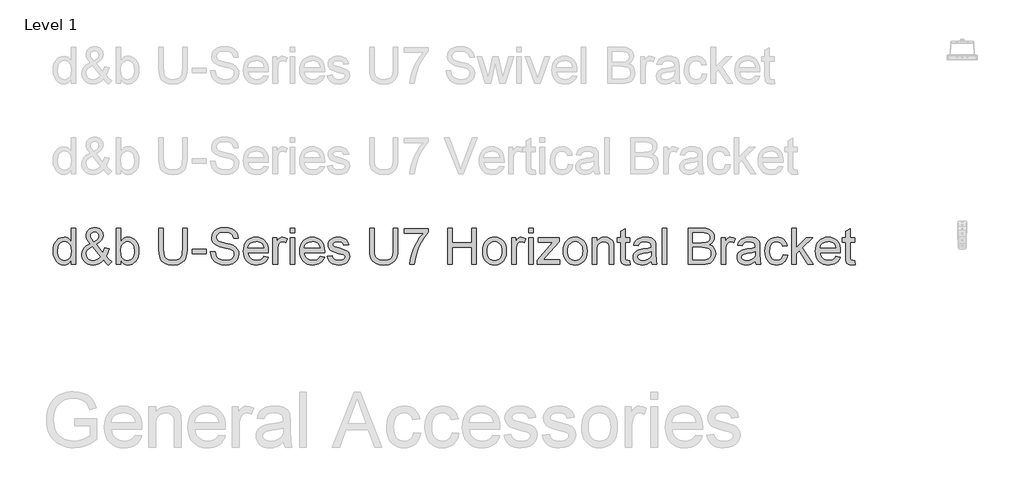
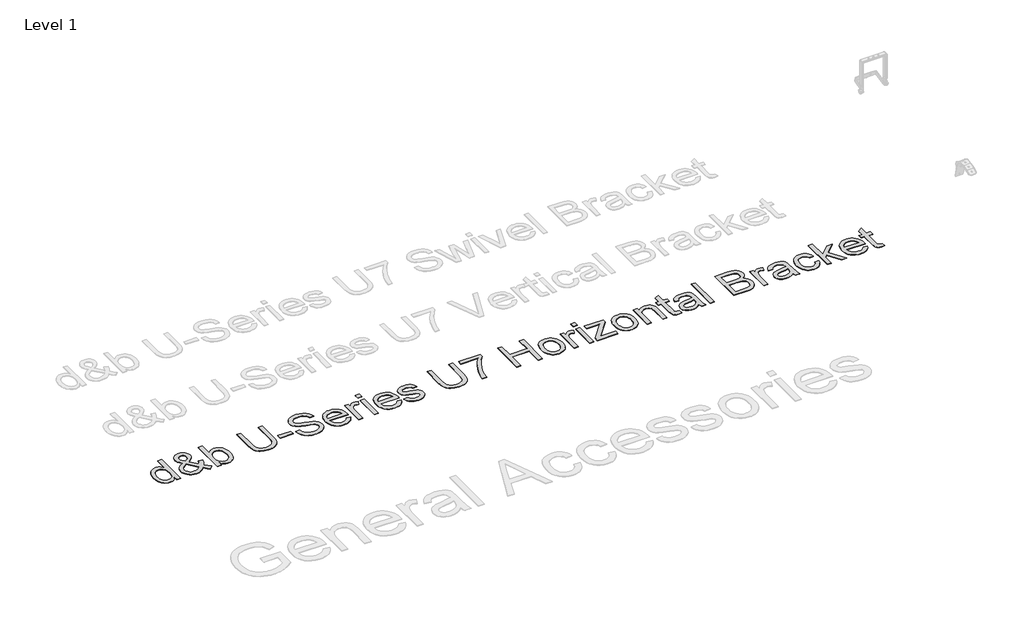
# One storey, part 3 of 29: 1 proxy.
"""IFC4 building model written with IfcOpenShell, lengths in millimetres."""

from ifc_helpers import new_model, si_unit, origin, origin_with_axes, place, context, project, spatial, polyline, outline, extrude, element, save

model = new_model("IFC4")

# Units and contexts
model_context = context("Model", 3, world=origin())
ifc_project = project(units=[si_unit("LENGTHUNIT", "METRE", prefix="MILLI")], contexts=[model_context])

# Site, building, storey
site = spatial("IfcSite", under=ifc_project)
building = spatial("IfcBuilding", under=site)
storey = spatial("IfcBuildingStorey", under=building, Name="Level 1", Elevation=0.0)

# Proxy
placement = place(None, origin())
element("IfcBuildingElementProxy", 1, Name="400mm Arial", ObjectType="400mm Arial", at=placement, inside=storey, context=model_context, shape_type="SweptSolid", body=[
    extrude(outline(polyline([(-20788.4119982, -9835.6363385), (-20788.4119982, -9788.2531375), (-20803.4399777, -9811.7301402), (-20821.6440051, -9828.4994278), (-20843.0240804, -9838.5610004), (-20867.5802036, -9841.9148579), (-20900.051921, -9837.0588156), (-20929.7767862, -9822.4906885), (-20954.9399147, -9799.2282837), (-20973.7264219, -9768.2894079), (-20985.4250694, -9730.9248599), (-20989.3246185, -9688.3854386), (-20985.7316377, -9646.3733147), (-20974.9526952, -9608.4324183), (-20957.0000539, -9576.7209903), (-20931.8859763, -9553.3972718), (-20901.5111863, -9539.049874), (-20867.7764073, -9534.2674081), (-20843.20189, -9537.6887106), (-20821.4723268, -9547.9526183), (-20803.0537016, -9563.6857049), (-20788.4119982, -9583.5145445), (-20788.4119982, -9433.8110979), (-20738.1838431, -9433.8110979), (-20738.1838431, -9835.6363385), (-20788.4119982, -9835.6363385)]), holes=[polyline([(-20939.0964634, -9688.1892348), (-20937.6801177, -9712.5460886), (-20933.4310807, -9733.6226612), (-20926.3493523, -9751.4189528), (-20916.4349325, -9765.9349632), (-20891.7377879, -9785.2487679), (-20877.8625053, -9790.0772191), (-20862.9694159, -9791.6867028), (-20848.0058157, -9790.1507955), (-20834.2133066, -9785.5430735), (-20810.1415614, -9767.1121855), (-20800.6348775, -9753.2031804), (-20793.844389, -9736.0506824), (-20788.4119982, -9692.0152076), (-20793.9424909, -9643.8717172), (-20800.8556067, -9625.336596), (-20810.5339688, -9610.4925575), (-20822.235682, -9599.1188724), (-20835.2188507, -9590.9948117), (-20849.4834751, -9586.1203753), (-20865.0295551, -9584.4955631), (-20880.2169501, -9586.0559959), (-20894.0922327, -9590.7372943), (-20906.6554028, -9598.5394583), (-20917.9064605, -9609.4624879), (-20927.1770868, -9623.7455063), (-20933.7989627, -9641.627637), (-20939.0964634, -9688.1892348)])]), origin_with_axes(), (0.0, 0.0, 1.0), 5.0),
    extrude(outline(polyline([(-20432.4003287, -9785.9967946), (-20457.9313392, -9810.4609473), (-20485.6696416, -9827.9353421), (-20515.664287, -9838.4199789), (-20547.9643262, -9841.9148579), (-20577.2722584, -9839.3274212), (-20603.3918801, -9831.5651111), (-20626.3231911, -9818.6279276), (-20646.0661915, -9800.5158707), (-20658.8991418, -9783.1457092), (-20668.0655348, -9764.7822662), (-20673.5653707, -9745.4255419), (-20675.3986493, -9725.0755362), (-20669.5002746, -9689.881492), (-20651.8051507, -9658.2681659), (-20622.3868538, -9630.2600833), (-20581.3189604, -9605.8817698), (-20603.2324646, -9577.5303307), (-20616.3903773, -9555.0650035), (-20622.975465, -9535.8860888), (-20625.1704942, -9517.3938872), (-20623.4414488, -9499.8397847), (-20618.2543127, -9483.4751673), (-20609.6090858, -9468.300035), (-20597.5057682, -9454.3143878), (-20582.784357, -9442.5973462), (-20566.2848495, -9434.2280308), (-20548.0072457, -9429.2064416), (-20527.9515456, -9427.5325785), (-20508.8032878, -9429.1328652), (-20491.4821772, -9433.9337252), (-20475.9882138, -9441.9351586), (-20462.3213977, -9453.1371654), (-20451.1623105, -9466.5832523), (-20443.1915339, -9481.3169262), (-20438.409068, -9497.3381871), (-20436.8149127, -9514.647035), (-20441.5360649, -9542.6305921), (-20455.6995218, -9568.5049591), (-20479.3052831, -9592.270136), (-20512.353349, -9613.9261227), (-20439.6598668, -9704.4741445), (-20427.2745063, -9678.5997775), (-20417.9793545, -9648.8503868), (-20367.7511994, -9659.7396939), (-20383.2022432, -9706.2645035), (-20403.2640747, -9742.4395664), (-20374.7164319, -9775.7451497), (-20342.6371219, -9803.2627229), (-20380.3082382, -9841.9148579), (-20405.9373505, -9818.4685121), (-20432.4003287, -9785.9967946)]), holes=[polyline([(-20537.7617322, -9582.2392202), (-20511.4949577, -9565.5741659), (-20496.4608468, -9551.091878), (-20489.3975125, -9537.0019976), (-20487.0430678, -9521.5141656), (-20490.1455392, -9503.9661944), (-20499.4529537, -9489.9744158), (-20513.4202068, -9480.8141542), (-20530.5021941, -9477.7607336), (-20547.9520634, -9480.7896287), (-20562.2381476, -9489.876314), (-20571.7662912, -9503.3285323), (-20574.9423391, -9519.4540264), (-20570.6258571, -9537.8481261), (-20557.578309, -9558.3023651), (-20537.7617322, -9582.2392202)]), polyline([(-20466.0492686, -9749.7972063), (-20555.7143735, -9637.8629779), (-20589.9641873, -9659.7151684), (-20610.8966728, -9679.9486782), (-20621.6020389, -9699.2747456), (-20625.1704942, -9718.4046094), (-20620.2899264, -9742.0962099), (-20605.648223, -9766.6707271), (-20594.8692805, -9777.6152165), (-20582.0547244, -9785.4327089), (-20567.2045545, -9790.1232043), (-20550.3187709, -9791.6867028), (-20527.5959264, -9788.7681723), (-20504.1618433, -9780.0125808), (-20482.7388484, -9766.6216762), (-20466.0492686, -9749.7972063)])]), origin_with_axes(), (0.0, 0.0, 1.0), 5.0),
    extrude(outline(polyline([(-20242.1808118, -9835.6363385), (-20292.4089668, -9835.6363385), (-20292.4089668, -9433.8110979), (-20242.1808118, -9433.8110979), (-20242.1808118, -9582.8278314), (-20225.6629102, -9561.5826462), (-20207.011293, -9546.4075139), (-20186.2259603, -9537.3024345), (-20163.306912, -9534.2674081), (-20137.432545, -9537.0019976), (-20112.9806551, -9545.2057661), (-20091.3491937, -9558.3636787), (-20073.9361126, -9575.9607008), (-20060.2876906, -9597.8251541), (-20049.9502065, -9623.7853602), (-20043.4386952, -9652.7621987), (-20041.2681915, -9683.676549), (-20043.5153373, -9719.3488398), (-20050.2567749, -9750.729174), (-20061.4925041, -9777.8175516), (-20077.2225251, -9800.6139726), (-20096.1040685, -9818.6831099), (-20116.7943651, -9831.5896366), (-20139.2934148, -9839.3335526), (-20163.6012176, -9841.9148579), (-20187.274424, -9838.5855258), (-20208.2620918, -9828.5975297), (-20226.5642211, -9811.9508694), (-20242.1808118, -9788.645545), (-20242.1808118, -9835.6363385)]), holes=[polyline([(-20242.1808118, -9686.0309938), (-20238.7472465, -9727.9204903), (-20228.4465506, -9756.2719294), (-20216.2757879, -9771.7658928), (-20202.1307252, -9782.8330095), (-20186.0113625, -9789.4732795), (-20167.9176997, -9791.6867028), (-20152.8958515, -9790.0557593), (-20138.9285984, -9785.1629288), (-20126.0159404, -9777.0082112), (-20114.1578774, -9765.5916066), (-20104.2434577, -9750.9437719), (-20097.1617293, -9733.0953637), (-20092.9126922, -9712.0463822), (-20091.4963465, -9687.7968274), (-20096.9287373, -9641.8361035), (-20103.7192258, -9624.0428776), (-20113.2259097, -9609.7077425), (-20124.6578427, -9598.677414), (-20137.2240785, -9590.798608), (-20150.9246172, -9586.0713243), (-20165.7594586, -9584.4955631), (-20180.7813068, -9586.1265066), (-20194.7485599, -9591.0193372), (-20207.6612179, -9599.1740547), (-20219.5192809, -9610.5906593), (-20229.4337006, -9625.0913413), (-20236.515429, -9642.498291), (-20240.7644661, -9662.8115085), (-20242.1808118, -9686.0309938)])]), origin_with_axes(), (0.0, 0.0, 1.0), 5.0),
    extrude(outline(polyline([(-19557.8221989, -9433.8110979), (-19507.5940438, -9433.8110979), (-19507.5940438, -9665.6258058), (-19511.0030836, -9719.9129256), (-19521.2302031, -9761.7165829), (-19529.4155775, -9778.6698116), (-19540.3355414, -9793.9675712), (-19570.3792376, -9819.5966835), (-19589.5213641, -9829.3608848), (-19611.4348683, -9836.3353143), (-19663.5760097, -9841.9148579), (-19714.576717, -9837.0588156), (-19755.3503048, -9822.4906885), (-19771.9049946, -9811.6902863), (-19785.9090359, -9798.7132489), (-19797.3624287, -9783.5595764), (-19806.2651729, -9766.2292688), (-19817.706303, -9722.6597778), (-19821.520013, -9665.6258058), (-19821.520013, -9433.8110979), (-19771.2918579, -9433.8110979), (-19771.2918579, -9663.8599722), (-19768.8147858, -9708.999093), (-19761.3835695, -9740.4284782), (-19747.9190885, -9762.1948295), (-19727.3422222, -9778.3448491), (-19700.5113621, -9788.3512394), (-19668.2848993, -9791.6867028), (-19640.6017791, -9790.0373652), (-19617.1983529, -9785.0893524), (-19598.0746205, -9776.8426643), (-19583.230582, -9765.297301), (-19572.1144144, -9749.0614423), (-19564.1742947, -9726.7432679), (-19559.4102228, -9698.3427779), (-19557.8221989, -9663.8599722), (-19557.8221989, -9433.8110979)])), origin_with_axes(), (0.0, 0.0, 1.0), 5.0),
    extrude(outline(polyline([(-19451.0873693, -9716.3444702), (-19451.0873693, -9666.1163151), (-19294.1243847, -9666.1163151), (-19294.1243847, -9716.3444702), (-19451.0873693, -9716.3444702)])), origin_with_axes(), (0.0, 0.0, 1.0), 5.0),
    extrude(outline(polyline([(-19250.174749, -9697.5089121), (-19199.946594, -9697.5089121), (-19194.1831094, -9725.3821046), (-19183.7597862, -9747.7861181), (-19167.499402, -9765.5670812), (-19144.2247344, -9779.5711224), (-19115.7751935, -9788.6578077), (-19083.9901891, -9791.6867028), (-19056.006632, -9789.3935717), (-19031.5056911, -9782.5141784), (-19011.6523261, -9771.6248713), (-18997.6114966, -9757.301999), (-18989.2605753, -9740.8576738), (-18986.4769349, -9723.6040082), (-18988.5615995, -9706.7918011), (-18994.8155934, -9692.2604623), (-19007.519785, -9679.862839), (-19028.9550426, -9669.4517786), (-19102.0899832, -9650.2728639), (-19150.0985836, -9637.580935), (-19180.8167302, -9625.5021429), (-19205.8204431, -9608.6040966), (-19223.5400926, -9588.1253322), (-19234.0983058, -9564.5073081), (-19237.6177103, -9538.1914827), (-19233.26444, -9508.7731858), (-19220.2046292, -9481.3414517), (-19198.7816343, -9458.0913096), (-19169.338812, -9441.2177887), (-19133.997615, -9430.9538811), (-19094.8794961, -9427.5325785), (-19052.4994903, -9431.1132966), (-19015.4169852, -9441.8554509), (-18984.956356, -9459.5383121), (-18962.4419779, -9483.9411511), (-18948.1926819, -9513.543389), (-18942.5272992, -9546.8244468), (-18992.7554543, -9546.8244468), (-19001.9770296, -9516.854327), (-19010.3402136, -9504.996264), (-19021.2049952, -9495.2228656), (-19051.2486915, -9482.1262666), (-19092.9174588, -9477.7607336), (-19135.5672448, -9482.0772157), (-19151.8705486, -9487.4728183), (-19164.8261262, -9495.0266619), (-19181.7486979, -9514.0829493), (-19187.3895552, -9536.7199547), (-19183.3919042, -9556.0214967), (-19171.3989511, -9571.5461169), (-19143.047512, -9585.4275309), (-19089.3857917, -9599.6032504), (-19034.0072887, -9613.0677314), (-19000.5055016, -9624.8154298), (-18971.8720197, -9643.0378513), (-18951.8960273, -9665.5277039), (-18940.1605917, -9692.0397331), (-18936.2487798, -9722.328684), (-18940.7492029, -9753.2920853), (-18954.2504721, -9782.4160765), (-18976.2007645, -9807.4811031), (-19006.048257, -9826.2676104), (-19041.941277, -9838.003046), (-19082.0281518, -9841.9148579), (-19131.2385, -9837.6964777), (-19171.7423077, -9825.041337), (-19204.0055586, -9803.9003851), (-19228.4942368, -9774.2245708), (-19244.2150607, -9738.0740334), (-19250.174749, -9697.5089121)])), origin_with_axes(), (0.0, 0.0, 1.0), 5.0),
    extrude(outline(polyline([(-18660.5825381, -9747.7370671), (-18611.3354017, -9754.0155865), (-18618.8861796, -9773.7401928), (-18629.0795766, -9791.1226171), (-18641.9155925, -9806.1628593), (-18657.3942275, -9818.8609195), (-18675.3560659, -9828.9470176), (-18695.6416922, -9836.1513733), (-18743.1843087, -9841.9148579), (-18774.3500451, -9839.4285887), (-18802.1190044, -9831.9697813), (-18826.4911866, -9819.5384355), (-18847.4665916, -9802.1345515), (-18864.3339811, -9780.2425071), (-18876.3821165, -9754.3466803), (-18883.6109977, -9724.4470712), (-18886.0206247, -9690.5436796), (-18883.5864722, -9655.4906568), (-18876.2840146, -9624.5947006), (-18864.1132519, -9597.8558109), (-18847.0741842, -9575.2739878), (-18826.1539614, -9557.3336092), (-18802.3397336, -9544.519053), (-18775.6315007, -9536.8303193), (-18746.0292628, -9534.2674081), (-18717.3804525, -9536.8241879), (-18691.472363, -9544.4945275), (-18668.3049943, -9557.2784269), (-18647.8783465, -9575.1758859), (-18631.2040951, -9597.7086581), (-18619.2939155, -9624.3984969), (-18612.1478077, -9655.2454022), (-18609.7657718, -9690.249374), (-18610.0600774, -9703.7874314), (-18835.7924697, -9703.7874314), (-18832.8831362, -9723.8308688), (-18827.0981918, -9741.3849713), (-18818.4376365, -9756.449739), (-18806.9014703, -9769.0251719), (-18793.1273553, -9778.9395917), (-18777.7529536, -9786.0213201), (-18742.2032901, -9791.6867028), (-18715.4705318, -9789.0624779), (-18692.9561537, -9781.1898032), (-18674.6601558, -9767.5781694), (-18660.5825381, -9747.7370671)]), holes=[polyline([(-18835.7924697, -9653.5592764), (-18659.9939269, -9653.5592764), (-18666.7874811, -9627.0227218), (-18680.1048093, -9608.0400108), (-18693.8022823, -9597.739315), (-18709.3882161, -9590.3816751), (-18726.8626109, -9585.9670911), (-18746.2254666, -9584.4955631), (-18780.0828729, -9589.1921899), (-18808.0786927, -9603.2820704), (-18827.5396502, -9625.2446255), (-18835.7924697, -9653.5592764)])]), origin_with_axes(), (0.0, 0.0, 1.0), 5.0),
    extrude(outline(polyline([(-18559.5376168, -9835.6363385), (-18559.5376168, -9540.5459274), (-18515.5879811, -9540.5459274), (-18515.5879811, -9584.2012575), (-18499.3521223, -9558.8909763), (-18484.3915879, -9543.9794927), (-18469.3820025, -9536.6954292), (-18452.998991, -9534.2674081), (-18427.9830153, -9538.1424317), (-18402.5746321, -9549.7675028), (-18419.3500511, -9594.796259), (-18437.0083869, -9587.0707371), (-18454.6667227, -9584.4955631), (-18469.6640453, -9586.9726352), (-18483.0672127, -9594.4038515), (-18493.8952061, -9606.2251263), (-18501.1670069, -9621.8723738), (-18507.273848, -9649.9295073), (-18509.3094617, -9680.5372893), (-18509.3094617, -9835.6363385), (-18559.5376168, -9835.6363385)])), origin_with_axes(), (0.0, 0.0, 1.0), 5.0),
    extrude(outline(polyline([(-18371.1820352, -9484.039253), (-18371.1820352, -9433.8110979), (-18320.9538802, -9433.8110979), (-18320.9538802, -9484.039253), (-18371.1820352, -9484.039253)])), origin_with_axes(), (0.0, 0.0, 1.0), 5.0),
    extrude(outline(polyline([(-18371.1820352, -9835.6363385), (-18371.1820352, -9540.5459274), (-18320.9538802, -9540.5459274), (-18320.9538802, -9835.6363385), (-18371.1820352, -9835.6363385)])), origin_with_axes(), (0.0, 0.0, 1.0), 5.0),
    extrude(outline(polyline([(-18039.009119, -9747.7370671), (-17989.7619826, -9754.0155865), (-17997.3127606, -9773.7401928), (-18007.5061575, -9791.1226171), (-18020.3421735, -9806.1628593), (-18035.8208084, -9818.8609195), (-18053.7826468, -9828.9470176), (-18074.0682732, -9836.1513733), (-18121.6108897, -9841.9148579), (-18152.7766261, -9839.4285887), (-18180.5455853, -9831.9697813), (-18204.9177675, -9819.5384355), (-18225.8931726, -9802.1345515), (-18242.7605621, -9780.2425071), (-18254.8086974, -9754.3466803), (-18262.0375786, -9724.4470712), (-18264.4472057, -9690.5436796), (-18262.0130532, -9655.4906568), (-18254.7105956, -9624.5947006), (-18242.5398329, -9597.8558109), (-18225.5007651, -9575.2739878), (-18204.5805423, -9557.3336092), (-18180.7663145, -9544.519053), (-18154.0580817, -9536.8303193), (-18124.4558438, -9534.2674081), (-18095.8070334, -9536.8241879), (-18069.8989439, -9544.4945275), (-18046.7315753, -9557.2784269), (-18026.3049275, -9575.1758859), (-18009.630676, -9597.7086581), (-17997.7204965, -9624.3984969), (-17990.5743887, -9655.2454022), (-17988.1923528, -9690.249374), (-17988.4866584, -9703.7874314), (-18214.2190506, -9703.7874314), (-18211.3097172, -9723.8308688), (-18205.5247728, -9741.3849713), (-18196.8642175, -9756.449739), (-18185.3280513, -9769.0251719), (-18171.5539362, -9778.9395917), (-18156.1795345, -9786.0213201), (-18120.629871, -9791.6867028), (-18093.8971127, -9789.0624779), (-18071.3827346, -9781.1898032), (-18053.0867367, -9767.5781694), (-18039.009119, -9747.7370671)]), holes=[polyline([(-18214.2190506, -9653.5592764), (-18038.4205079, -9653.5592764), (-18045.214062, -9627.0227218), (-18058.5313903, -9608.0400108), (-18072.2288632, -9597.739315), (-18087.8147971, -9590.3816751), (-18105.2891918, -9585.9670911), (-18124.6520475, -9584.4955631), (-18158.5094538, -9589.1921899), (-18186.5052736, -9603.2820704), (-18205.9662312, -9625.2446255), (-18214.2190506, -9653.5592764)])]), origin_with_axes(), (0.0, 0.0, 1.0), 5.0),
    extrude(outline(polyline([(-17956.7997559, -9747.7370671), (-17906.5716008, -9741.4585477), (-17898.6498752, -9762.9428563), (-17883.3214587, -9778.7372566), (-17860.4882495, -9788.4493413), (-17830.0521458, -9791.6867028), (-17799.983924, -9788.7191214), (-17778.8429721, -9779.8163771), (-17766.3349842, -9766.9159818), (-17762.1656549, -9751.9554473), (-17766.3595097, -9739.1531539), (-17778.9410739, -9729.3920183), (-17830.640757, -9715.069146), (-17906.2772952, -9690.4946287), (-17925.4194217, -9678.1460564), (-17939.2885729, -9661.7998331), (-17947.7130706, -9642.498291), (-17950.5212365, -9621.2837627), (-17948.2648936, -9601.8228051), (-17941.4958649, -9583.857901), (-17930.827287, -9568.1002889), (-17916.8722966, -9555.2612073), (-17884.9401395, -9540.3987746), (-17864.0567049, -9535.8002497), (-17841.7262678, -9534.2674081), (-17809.0338211, -9536.7322174), (-17780.6088056, -9544.1266455), (-17757.751071, -9555.7271911), (-17741.7604669, -9570.8103529), (-17731.1654655, -9590.4920397), (-17724.4945386, -9615.8881601), (-17774.7226937, -9622.1666794), (-17781.0625268, -9606.3600164), (-17793.6073028, -9594.4529025), (-17812.4796492, -9586.984898), (-17837.8021932, -9584.4955631), (-17866.6441416, -9586.8745334), (-17885.8721072, -9594.0114441), (-17896.6878378, -9604.3121399), (-17900.2930814, -9616.1824657), (-17894.3088676, -9630.7996436), (-17875.5714113, -9641.8851544), (-17832.3084887, -9652.5782577), (-17758.5849369, -9676.2208073), (-17739.1117166, -9687.5270473), (-17724.3473858, -9703.0026165), (-17715.0399714, -9722.696566), (-17711.9374999, -9746.6579466), (-17715.5795316, -9771.4286676), (-17726.5056269, -9794.7278606), (-17744.2988527, -9814.7283785), (-17768.5422762, -9829.6030738), (-17797.825683, -9838.8369119), (-17830.7388588, -9841.9148579), (-17857.7720541, -9840.4310672), (-17881.3839468, -9835.979695), (-17901.574537, -9828.5607415), (-17918.3438246, -9818.1742065), (-17932.0412976, -9804.869141), (-17943.0164438, -9788.6945959), (-17951.2692632, -9769.6505713), (-17956.7997559, -9747.7370671)])), origin_with_axes(), (0.0, 0.0, 1.0), 5.0),
    extrude(outline(polyline([(-17228.4915073, -9433.8110979), (-17178.2633522, -9433.8110979), (-17178.2633522, -9665.6258058), (-17181.672392, -9719.9129256), (-17191.8995115, -9761.7165829), (-17200.0848859, -9778.6698116), (-17211.0048498, -9793.9675712), (-17241.048546, -9819.5966835), (-17260.1906725, -9829.3608848), (-17282.1041767, -9836.3353143), (-17334.2453182, -9841.9148579), (-17385.2460254, -9837.0588156), (-17426.0196132, -9822.4906885), (-17442.574303, -9811.6902863), (-17456.5783443, -9798.7132489), (-17468.0317371, -9783.5595764), (-17476.9344814, -9766.2292688), (-17488.3756114, -9722.6597778), (-17492.1893214, -9665.6258058), (-17492.1893214, -9433.8110979), (-17441.9611663, -9433.8110979), (-17441.9611663, -9663.8599722), (-17439.4840942, -9708.999093), (-17432.0528779, -9740.4284782), (-17418.5883969, -9762.1948295), (-17398.0115307, -9778.3448491), (-17371.1806705, -9788.3512394), (-17338.9542077, -9791.6867028), (-17311.2710876, -9790.0373652), (-17287.8676613, -9785.0893524), (-17268.7439289, -9776.8426643), (-17253.8998904, -9765.297301), (-17242.7837228, -9749.0614423), (-17234.8436031, -9726.7432679), (-17230.0795312, -9698.3427779), (-17228.4915073, -9663.8599722), (-17228.4915073, -9433.8110979)])), origin_with_axes(), (0.0, 0.0, 1.0), 5.0),
    extrude(outline(polyline([(-17109.199639, -9490.3177724), (-17109.199639, -9440.0896173), (-16845.5018248, -9440.0896173), (-16845.5018248, -9480.7037896), (-16883.087102, -9528.2709315), (-16920.3044972, -9588.7629943), (-16953.1318339, -9656.6617479), (-16977.5469356, -9726.4489623), (-16989.5153632, -9778.6636802), (-16996.1862901, -9835.6363385), (-17046.4144451, -9835.6363385), (-17040.9820543, -9783.8630791), (-17026.4507155, -9722.328684), (-17003.2128362, -9657.1032063), (-16971.6608237, -9594.2566987), (-16934.8235733, -9537.443456), (-16895.7299799, -9490.3177724), (-17109.199639, -9490.3177724)])), origin_with_axes(), (0.0, 0.0, 1.0), 5.0),
    extrude(outline(polyline([(-16625.7536464, -9835.6363385), (-16625.7536464, -9433.8110979), (-16575.5254913, -9433.8110979), (-16575.5254913, -9597.0526019), (-16362.0558322, -9597.0526019), (-16362.0558322, -9433.8110979), (-16311.8276772, -9433.8110979), (-16311.8276772, -9835.6363385), (-16362.0558322, -9835.6363385), (-16362.0558322, -9647.280757), (-16575.5254913, -9647.280757), (-16575.5254913, -9835.6363385), (-16625.7536464, -9835.6363385)])), origin_with_axes(), (0.0, 0.0, 1.0), 5.0),
    extrude(outline(polyline([(-16242.7639639, -9688.091133), (-16240.0477685, -9649.874325), (-16231.8991823, -9616.9427551), (-16218.3182054, -9589.2964232), (-16199.3048376, -9566.9353292), (-16180.1627111, -9552.6431137), (-16159.0340218, -9542.4343884), (-16135.9187698, -9536.3091531), (-16110.816955, -9534.2674081), (-16083.1062437, -9536.7536772), (-16058.0504142, -9544.2124847), (-16035.6494663, -9556.6438304), (-16015.9034002, -9574.0477145), (-15999.7871032, -9595.8355256), (-15988.2754624, -9621.4186527), (-15981.3684779, -9650.7970957), (-15979.0661498, -9683.9708546), (-15983.1373772, -9734.7140445), (-15995.3510594, -9773.341654), (-16015.3515772, -9802.2694415), (-16042.7833114, -9823.9131656), (-16075.3653934, -9837.4144348), (-16110.816955, -9841.9148579), (-16138.9323365, -9839.4377858), (-16164.221158, -9832.0065695), (-16186.6834194, -9819.621209), (-16206.3191209, -9802.2817043), (-16222.2637397, -9780.282361), (-16233.6527532, -9753.9174846), (-16240.4861612, -9723.1870753), (-16242.7639639, -9688.091133)]), holes=[polyline([(-16192.5358089, -9687.9930311), (-16191.082675, -9712.3560162), (-16186.7232733, -9733.450983), (-16179.4576039, -9751.2779313), (-16169.2856668, -9765.8368613), (-16156.912569, -9777.146167), (-16143.0434178, -9785.2242424), (-16127.6782131, -9790.0710877), (-16110.816955, -9791.6867028), (-16094.041536, -9790.0618907), (-16078.737645, -9785.1874542), (-16064.905282, -9777.0633935), (-16052.544447, -9765.6897085), (-16042.3725098, -9750.9866914), (-16035.1068404, -9732.8746345), (-16030.7474387, -9711.3535378), (-16029.2943049, -9686.4234013), (-16030.7566358, -9662.8329683), (-16035.1436286, -9642.2898246), (-16042.4552832, -9624.79397), (-16052.6915998, -9610.3454047), (-16065.09842, -9599.036099), (-16078.921586, -9590.9580235), (-16094.1610977, -9586.1111782), (-16110.816955, -9584.4955631), (-16127.6782131, -9586.1050469), (-16143.0434178, -9590.9334981), (-16156.912569, -9598.9809167), (-16169.2856668, -9610.2473028), (-16179.4576039, -9624.7633132), (-16186.7232733, -9642.5596047), (-16191.082675, -9663.6361773), (-16192.5358089, -9687.9930311)])]), origin_with_axes(), (0.0, 0.0, 1.0), 5.0),
    extrude(outline(polyline([(-15922.5594753, -9835.6363385), (-15922.5594753, -9540.5459274), (-15878.6098396, -9540.5459274), (-15878.6098396, -9584.2012575), (-15862.3739809, -9558.8909763), (-15847.4134464, -9543.9794927), (-15832.403861, -9536.6954292), (-15816.0208495, -9534.2674081), (-15791.0048739, -9538.1424317), (-15765.5964907, -9549.7675028), (-15782.3719097, -9594.796259), (-15800.0302455, -9587.0707371), (-15817.6885812, -9584.4955631), (-15832.6859039, -9586.9726352), (-15846.0890713, -9594.4038515), (-15856.9170647, -9606.2251263), (-15864.1888654, -9621.8723738), (-15870.2957065, -9649.9295073), (-15872.3313203, -9680.5372893), (-15872.3313203, -9835.6363385), (-15922.5594753, -9835.6363385)])), origin_with_axes(), (0.0, 0.0, 1.0), 5.0),
    extrude(outline(polyline([(-15734.2038938, -9484.039253), (-15734.2038938, -9433.8110979), (-15683.9757387, -9433.8110979), (-15683.9757387, -9484.039253), (-15734.2038938, -9484.039253)])), origin_with_axes(), (0.0, 0.0, 1.0), 5.0),
    extrude(outline(polyline([(-15734.2038938, -9835.6363385), (-15734.2038938, -9540.5459274), (-15683.9757387, -9540.5459274), (-15683.9757387, -9835.6363385), (-15734.2038938, -9835.6363385)])), origin_with_axes(), (0.0, 0.0, 1.0), 5.0),
    extrude(outline(polyline([(-15640.026103, -9835.6363385), (-15640.026103, -9788.3512394), (-15466.6801069, -9590.7740825), (-15517.9873825, -9590.7740825), (-15627.4690643, -9590.7740825), (-15627.4690643, -9540.5459274), (-15395.163847, -9540.5459274), (-15395.163847, -9583.2202389), (-15548.8894701, -9758.5282723), (-15572.4339178, -9785.4081834), (-15514.3576135, -9785.4081834), (-15388.8853277, -9785.4081834), (-15388.8853277, -9835.6363385), (-15640.026103, -9835.6363385)])), origin_with_axes(), (0.0, 0.0, 1.0), 5.0),
    extrude(outline(polyline([(-15351.2142114, -9688.091133), (-15348.498016, -9649.874325), (-15340.3494298, -9616.9427551), (-15326.7684528, -9589.2964232), (-15307.755085, -9566.9353292), (-15288.6129585, -9552.6431137), (-15267.4842693, -9542.4343884), (-15244.3690172, -9536.3091531), (-15219.2672024, -9534.2674081), (-15191.5564911, -9536.7536772), (-15166.5006616, -9544.2124847), (-15144.0997138, -9556.6438304), (-15124.3536477, -9574.0477145), (-15108.2373506, -9595.8355256), (-15096.7257098, -9621.4186527), (-15089.8187254, -9650.7970957), (-15087.5163972, -9683.9708546), (-15091.5876246, -9734.7140445), (-15103.8013069, -9773.341654), (-15123.8018247, -9802.2694415), (-15151.2335588, -9823.9131656), (-15183.8156408, -9837.4144348), (-15219.2672024, -9841.9148579), (-15247.3825839, -9839.4377858), (-15272.6714054, -9832.0065695), (-15295.1336669, -9819.621209), (-15314.7693684, -9802.2817043), (-15330.7139872, -9780.282361), (-15342.1030006, -9753.9174846), (-15348.9364087, -9723.1870753), (-15351.2142114, -9688.091133)]), holes=[polyline([(-15300.9860563, -9687.9930311), (-15299.5329224, -9712.3560162), (-15295.1735208, -9733.450983), (-15287.9078513, -9751.2779313), (-15277.7359142, -9765.8368613), (-15265.3628164, -9777.146167), (-15251.4936652, -9785.2242424), (-15236.1284605, -9790.0710877), (-15219.2672024, -9791.6867028), (-15202.4917834, -9790.0618907), (-15187.1878924, -9785.1874542), (-15173.3555294, -9777.0633935), (-15160.9946944, -9765.6897085), (-15150.8227572, -9750.9866914), (-15143.5570878, -9732.8746345), (-15139.1976862, -9711.3535378), (-15137.7445523, -9686.4234013), (-15139.2068832, -9662.8329683), (-15143.593876, -9642.2898246), (-15150.9055307, -9624.79397), (-15161.1418472, -9610.3454047), (-15173.5486675, -9599.036099), (-15187.3718334, -9590.9580235), (-15202.6113451, -9586.1111782), (-15219.2672024, -9584.4955631), (-15236.1284605, -9586.1050469), (-15251.4936652, -9590.9334981), (-15265.3628164, -9598.9809167), (-15277.7359142, -9610.2473028), (-15287.9078513, -9624.7633132), (-15295.1735208, -9642.5596047), (-15299.5329224, -9663.6361773), (-15300.9860563, -9687.9930311)])]), origin_with_axes(), (0.0, 0.0, 1.0), 5.0),
    extrude(outline(polyline([(-15031.0097228, -9835.6363385), (-15031.0097228, -9540.5459274), (-14980.7815677, -9540.5459274), (-14980.7815677, -9581.7487109), (-14963.3316984, -9560.9756409), (-14942.3746874, -9546.1377338), (-14917.9105347, -9537.2349895), (-14889.9392403, -9534.2674081), (-14865.1807821, -9536.658641), (-14842.5069884, -9543.8323399), (-14823.5978539, -9554.8933253), (-14810.1333728, -9568.9464175), (-14800.9976366, -9585.9548284), (-14795.0747365, -9605.8817698), (-14792.4259861, -9654.4421932), (-14792.4259861, -9835.6363385), (-14842.6541412, -9835.6363385), (-14842.6541412, -9661.2112219), (-14844.1011437, -9635.238753), (-14848.4421513, -9616.7710768), (-14856.449716, -9603.5395878), (-14868.8963902, -9593.2756801), (-14884.8502061, -9586.6905924), (-14903.3791959, -9584.4955631), (-14932.7974928, -9589.4251819), (-14957.8747821, -9604.2140381), (-14967.8965008, -9616.2866989), (-14975.0548713, -9632.7862064), (-14979.3498936, -9653.7125605), (-14980.7815677, -9679.0657614), (-14980.7815677, -9835.6363385), (-15031.0097228, -9835.6363385)])), origin_with_axes(), (0.0, 0.0, 1.0), 5.0),
    extrude(outline(polyline([(-14616.6274434, -9793.746842), (-14610.348924, -9837.1078665), (-14647.9219384, -9841.9148579), (-14672.0304719, -9839.8301933), (-14690.0076387, -9833.5761993), (-14702.7118303, -9823.9376911), (-14711.0014379, -9811.6994834), (-14715.5631746, -9790.6811587), (-14717.0837535, -9754.7022996), (-14717.0837535, -9590.7740825), (-14754.7548698, -9590.7740825), (-14754.7548698, -9540.5459274), (-14717.0837535, -9540.5459274), (-14717.0837535, -9468.8334639), (-14666.8555985, -9439.3048024), (-14666.8555985, -9540.5459274), (-14616.6274434, -9540.5459274), (-14616.6274434, -9590.7740825), (-14666.8555985, -9590.7740825), (-14666.8555985, -9753.2307716), (-14664.2068481, -9779.1296641), (-14655.6229349, -9788.3021885), (-14638.5041594, -9791.6867028), (-14616.6274434, -9793.746842)])), origin_with_axes(), (0.0, 0.0, 1.0), 5.0),
    extrude(outline(polyline([(-14378.0437068, -9797.9652222), (-14402.0418756, -9818.5420885), (-14426.7512829, -9832.0065695), (-14452.7360145, -9839.4377858), (-14480.5601561, -9841.9148579), (-14502.9243157, -9840.4249358), (-14522.5354918, -9835.9551696), (-14539.3936842, -9828.5055592), (-14553.498893, -9818.0761046), (-14564.6365204, -9805.3289935), (-14572.5919686, -9790.9264134), (-14577.3652374, -9774.8683643), (-14578.9563271, -9757.1548462), (-14576.5528314, -9736.3327253), (-14569.3423443, -9717.4235907), (-14558.2200453, -9701.2367829), (-14544.0811139, -9688.5816423), (-14527.4651105, -9679.0167104), (-14508.9115952, -9672.1005289), (-14465.4524688, -9664.5466853), (-14414.0961423, -9656.6004342), (-14378.3380124, -9647.280757), (-14378.0437068, -9636.0971443), (-14381.5017975, -9613.6808681), (-14391.8760698, -9599.0146392), (-14415.077161, -9588.1253322), (-14447.4017256, -9584.4955631), (-14477.3227945, -9586.9113216), (-14498.2184919, -9594.1585969), (-14512.4677878, -9607.5617642), (-14522.4496526, -9628.4451988), (-14572.6778077, -9622.1666794), (-14563.9590044, -9594.6981571), (-14550.9482445, -9573.1157468), (-14532.4315174, -9556.6101079), (-14507.1948126, -9544.3719002), (-14476.3295132, -9536.7935311), (-14440.9270025, -9534.2674081), (-14406.9714943, -9536.4992255), (-14380.054795, -9543.1946778), (-14359.7599716, -9553.2623817), (-14345.6700912, -9565.610954), (-14336.3258885, -9580.8780568), (-14330.2680983, -9599.7013523), (-14327.8155517, -9643.650988), (-14327.8155517, -9706.1418762), (-14325.2649032, -9793.4034855), (-14315.2585129, -9835.6363385), (-14365.486668, -9835.6363385), (-14373.531021, -9818.1742065), (-14378.0437068, -9797.9652222)]), holes=[polyline([(-14378.0437068, -9697.5089121), (-14411.7907485, -9705.8720961), (-14459.0758476, -9712.9109049), (-14502.2897193, -9721.0533597), (-14513.5346456, -9726.6206406), (-14521.8610414, -9734.2971116), (-14527.0113894, -9743.4941615), (-14528.728172, -9753.6231791), (-14524.9880384, -9768.5591881), (-14513.7676375, -9780.7973958), (-14495.3122241, -9788.9643761), (-14469.8670528, -9791.6867028), (-14442.8890398, -9788.6823332), (-14419.0502865, -9779.6692243), (-14399.724219, -9766.3886843), (-14386.2842635, -9750.5820212), (-14380.3245751, -9734.2971116), (-14378.3380124, -9711.7336825), (-14378.0437068, -9697.5089121)])]), origin_with_axes(), (0.0, 0.0, 1.0), 5.0),
    extrude(outline(polyline([(-14258.7518385, -9835.6363385), (-14258.7518385, -9433.8110979), (-14208.5236834, -9433.8110979), (-14208.5236834, -9835.6363385), (-14258.7518385, -9835.6363385)])), origin_with_axes(), (0.0, 0.0, 1.0), 5.0),
    extrude(outline(polyline([(-13969.9399468, -9835.6363385), (-13969.9399468, -9433.8110979), (-13816.6067312, -9433.8110979), (-13774.4351918, -9436.7664166), (-13741.5097533, -9445.6323727), (-13716.2730484, -9460.6296954), (-13697.1677101, -9481.9791138), (-13685.1379689, -9507.0931914), (-13681.1280551, -9533.3844913), (-13684.5003067, -9557.5788638), (-13694.6170616, -9580.3262339), (-13711.5518961, -9600.2286498), (-13735.3783867, -9615.8881601), (-13706.916583, -9630.7505927), (-13685.8859956, -9653.3630726), (-13672.8997612, -9682.2295465), (-13668.5710163, -9715.8539609), (-13671.526335, -9743.8743062), (-13680.3922911, -9769.8590378), (-13693.6237802, -9791.9564829), (-13709.6756979, -9808.314969), (-13729.3328592, -9820.1607692), (-13753.380079, -9828.720157), (-13782.6021721, -9833.9072931), (-13817.7839536, -9835.6363385), (-13969.9399468, -9835.6363385)]), holes=[polyline([(-13919.7117917, -9785.4081834), (-13816.7048331, -9785.4081834), (-13779.4261242, -9783.4461461), (-13747.8863745, -9772.5077881), (-13736.3103544, -9763.0777463), (-13726.9906772, -9750.1896138), (-13720.8470479, -9734.4197389), (-13718.7991714, -9716.3444702), (-13721.2026671, -9695.350671), (-13728.4131542, -9677.2999278), (-13741.0069812, -9663.1855219), (-13759.5604965, -9654.0007348), (-13785.8395337, -9648.9607514), (-13821.6099263, -9647.280757), (-13919.7117917, -9647.280757), (-13919.7117917, -9785.4081834)]), polyline([(-13919.7117917, -9597.0526019), (-13827.9865476, -9597.0526019), (-13774.4229291, -9592.7361198), (-13755.6732101, -9585.2926408), (-13742.1964663, -9574.1458163), (-13734.0662742, -9559.4673247), (-13731.3562102, -9541.4288442), (-13733.8823332, -9523.9176613), (-13741.4607023, -9508.6628212), (-13753.747961, -9496.7557073), (-13770.4007526, -9489.2877028), (-13795.9562885, -9485.3513654), (-13834.95178, -9484.039253), (-13919.7117917, -9484.039253), (-13919.7117917, -9597.0526019)])]), origin_with_axes(), (0.0, 0.0, 1.0), 5.0),
    extrude(outline(polyline([(-13605.7858225, -9835.6363385), (-13605.7858225, -9540.5459274), (-13561.8361868, -9540.5459274), (-13561.8361868, -9584.2012575), (-13545.6003281, -9558.8909763), (-13530.6397936, -9543.9794927), (-13515.6302082, -9536.6954292), (-13499.2471967, -9534.2674081), (-13474.231221, -9538.1424317), (-13448.8228379, -9549.7675028), (-13465.5982569, -9594.796259), (-13483.2565926, -9587.0707371), (-13500.9149284, -9584.4955631), (-13515.9122511, -9586.9726352), (-13529.3154184, -9594.4038515), (-13540.1434118, -9606.2251263), (-13547.4152126, -9621.8723738), (-13553.5220537, -9649.9295073), (-13555.5576674, -9680.5372893), (-13555.5576674, -9835.6363385), (-13605.7858225, -9835.6363385)])), origin_with_axes(), (0.0, 0.0, 1.0), 5.0),
    extrude(outline(polyline([(-13229.0746594, -9797.9652222), (-13253.0728283, -9818.5420885), (-13277.7822356, -9832.0065695), (-13303.7669672, -9839.4377858), (-13331.5911088, -9841.9148579), (-13353.9552684, -9840.4249358), (-13373.5664444, -9835.9551696), (-13390.4246368, -9828.5055592), (-13404.5298457, -9818.0761046), (-13415.6674731, -9805.3289935), (-13423.6229212, -9790.9264134), (-13428.3961901, -9774.8683643), (-13429.9872797, -9757.1548462), (-13427.583784, -9736.3327253), (-13420.3732969, -9717.4235907), (-13409.2509979, -9701.2367829), (-13395.1120666, -9688.5816423), (-13378.4960632, -9679.0167104), (-13359.9425479, -9672.1005289), (-13316.4834215, -9664.5466853), (-13265.127095, -9656.6004342), (-13229.368965, -9647.280757), (-13229.0746594, -9636.0971443), (-13232.5327502, -9613.6808681), (-13242.9070225, -9599.0146392), (-13266.1081136, -9588.1253322), (-13298.4326783, -9584.4955631), (-13328.3537472, -9586.9113216), (-13349.2494445, -9594.1585969), (-13363.4987405, -9607.5617642), (-13373.4806053, -9628.4451988), (-13423.7087604, -9622.1666794), (-13414.9899571, -9594.6981571), (-13401.9791972, -9573.1157468), (-13383.4624701, -9556.6101079), (-13358.2257652, -9544.3719002), (-13327.3604658, -9536.7935311), (-13291.9579552, -9534.2674081), (-13258.002447, -9536.4992255), (-13231.0857477, -9543.1946778), (-13210.7909243, -9553.2623817), (-13196.7010439, -9565.610954), (-13187.3568412, -9580.8780568), (-13181.299051, -9599.7013523), (-13178.8465044, -9643.650988), (-13178.8465044, -9706.1418762), (-13176.2958559, -9793.4034855), (-13166.2894656, -9835.6363385), (-13216.5176207, -9835.6363385), (-13224.5619736, -9818.1742065), (-13229.0746594, -9797.9652222)]), holes=[polyline([(-13229.0746594, -9697.5089121), (-13262.8217011, -9705.8720961), (-13310.1068002, -9712.9109049), (-13353.3206719, -9721.0533597), (-13364.5655983, -9726.6206406), (-13372.8919941, -9734.2971116), (-13378.042342, -9743.4941615), (-13379.7591247, -9753.6231791), (-13376.018991, -9768.5591881), (-13364.7985902, -9780.7973958), (-13346.3431768, -9788.9643761), (-13320.8980054, -9791.6867028), (-13293.9199925, -9788.6823332), (-13270.0812392, -9779.6692243), (-13250.7551717, -9766.3886843), (-13237.3152161, -9750.5820212), (-13231.3555278, -9734.2971116), (-13229.368965, -9711.7336825), (-13229.0746594, -9697.5089121)])]), origin_with_axes(), (0.0, 0.0, 1.0), 5.0),
    extrude(outline(polyline([(-12921.4272096, -9728.901509), (-12871.1990545, -9735.1800284), (-12876.6621022, -9758.8808259), (-12885.2030958, -9779.8531653), (-12896.8220355, -9798.0970466), (-12911.5189212, -9813.6124697), (-12928.6744849, -9825.9947646), (-12947.6694586, -9834.8392609), (-12968.5038423, -9840.1459586), (-12991.1776359, -9841.9148579), (-13019.3481997, -9839.4469828), (-13044.6063643, -9832.0433577), (-13066.9521299, -9819.7039824), (-13086.3854962, -9802.4288571), (-13102.1155172, -9780.542944), (-13113.3512465, -9754.3712058), (-13120.0926841, -9723.9136423), (-13122.3398299, -9689.1702535), (-13118.5015944, -9644.4725911), (-13106.986888, -9605.734617), (-13087.6117696, -9574.4523847), (-13060.1922982, -9552.1219476), (-13027.389487, -9538.7310429), (-12991.864349, -9534.2674081), (-12969.5798971, -9535.8002497), (-12949.4230294, -9540.3987746), (-12931.393746, -9548.0629829), (-12915.4920468, -9558.7928744), (-12901.9877118, -9572.3431946), (-12891.1505214, -9588.4686887), (-12882.9804754, -9607.1693568), (-12877.4775739, -9628.4451988), (-12927.705729, -9634.7237182), (-12936.8169397, -9612.810214), (-12951.004922, -9597.1016528), (-12969.4848609, -9587.6470856), (-12991.4719415, -9584.4955631), (-13008.5386004, -9586.0467989), (-13023.9313962, -9590.7005061), (-13037.6503289, -9598.4566849), (-13049.6953986, -9609.3153351), (-13059.5025194, -9623.5278428), (-13066.5076058, -9641.3455941), (-13070.7106576, -9662.768589), (-13072.1116748, -9687.7968274), (-13066.6302331, -9734.87346), (-13059.7784309, -9752.810773), (-13050.1859079, -9767.0140837), (-13038.3799616, -9777.8083546), (-13024.8878894, -9785.518548), (-13009.7096914, -9790.1446641), (-12992.8453676, -9791.6867028), (-12966.8361105, -9787.8362046), (-12945.5112176, -9776.28471), (-12929.9988601, -9756.7379133), (-12921.4272096, -9728.901509)])), origin_with_axes(), (0.0, 0.0, 1.0), 5.0),
    extrude(outline(polyline([(-12827.2494188, -9835.6363385), (-12827.2494188, -9433.8110979), (-12777.0212638, -9433.8110979), (-12777.0212638, -9649.7333036), (-12664.4003223, -9540.5459274), (-12594.9442016, -9540.5459274), (-12709.0366711, -9651.1067297), (-12588.6656822, -9835.6363385), (-12647.3305977, -9835.6363385), (-12745.0400557, -9686.0309938), (-12777.0212638, -9717.1292851), (-12777.0212638, -9835.6363385), (-12827.2494188, -9835.6363385)])), origin_with_axes(), (0.0, 0.0, 1.0), 5.0),
    extrude(outline(polyline([(-12338.1135181, -9747.7370671), (-12288.8663816, -9754.0155865), (-12296.4171596, -9773.7401928), (-12306.6105565, -9791.1226171), (-12319.4465725, -9806.1628593), (-12334.9252074, -9818.8609195), (-12352.8870458, -9828.9470176), (-12373.1726722, -9836.1513733), (-12420.7152887, -9841.9148579), (-12451.8810251, -9839.4285887), (-12479.6499843, -9831.9697813), (-12504.0221665, -9819.5384355), (-12524.9975716, -9802.1345515), (-12541.8649611, -9780.2425071), (-12553.9130964, -9754.3466803), (-12561.1419776, -9724.4470712), (-12563.5516047, -9690.5436796), (-12561.1174522, -9655.4906568), (-12553.8149946, -9624.5947006), (-12541.6442319, -9597.8558109), (-12524.6051641, -9575.2739878), (-12503.6849414, -9557.3336092), (-12479.8707135, -9544.519053), (-12453.1624807, -9536.8303193), (-12423.5602428, -9534.2674081), (-12394.9114324, -9536.8241879), (-12369.0033429, -9544.4945275), (-12345.8359743, -9557.2784269), (-12325.4093265, -9575.1758859), (-12308.7350751, -9597.7086581), (-12296.8248955, -9624.3984969), (-12289.6787877, -9655.2454022), (-12287.2967518, -9690.249374), (-12287.5910574, -9703.7874314), (-12513.3234496, -9703.7874314), (-12510.4141162, -9723.8308688), (-12504.6291718, -9741.3849713), (-12495.9686165, -9756.449739), (-12484.4324503, -9769.0251719), (-12470.6583352, -9778.9395917), (-12455.2839335, -9786.0213201), (-12419.7342701, -9791.6867028), (-12393.0015117, -9789.0624779), (-12370.4871336, -9781.1898032), (-12352.1911357, -9767.5781694), (-12338.1135181, -9747.7370671)]), holes=[polyline([(-12513.3234496, -9653.5592764), (-12337.5249069, -9653.5592764), (-12344.318461, -9627.0227218), (-12357.6357893, -9608.0400108), (-12371.3332622, -9597.739315), (-12386.9191961, -9590.3816751), (-12404.3935909, -9585.9670911), (-12423.7564465, -9584.4955631), (-12457.6138528, -9589.1921899), (-12485.6096727, -9603.2820704), (-12505.0706302, -9625.2446255), (-12513.3234496, -9653.5592764)])]), origin_with_axes(), (0.0, 0.0, 1.0), 5.0),
    extrude(outline(polyline([(-12130.3337672, -9793.746842), (-12124.0552478, -9837.1078665), (-12161.6282622, -9841.9148579), (-12185.7367957, -9839.8301933), (-12203.7139625, -9833.5761993), (-12216.4181541, -9823.9376911), (-12224.7077617, -9811.6994834), (-12229.2694984, -9790.6811587), (-12230.7900773, -9754.7022996), (-12230.7900773, -9590.7740825), (-12268.4611936, -9590.7740825), (-12268.4611936, -9540.5459274), (-12230.7900773, -9540.5459274), (-12230.7900773, -9468.8334639), (-12180.5619223, -9439.3048024), (-12180.5619223, -9540.5459274), (-12130.3337672, -9540.5459274), (-12130.3337672, -9590.7740825), (-12180.5619223, -9590.7740825), (-12180.5619223, -9753.2307716), (-12177.9131719, -9779.1296641), (-12169.3292587, -9788.3021885), (-12152.2104832, -9791.6867028), (-12130.3337672, -9793.746842)])), origin_with_axes(), (0.0, 0.0, 1.0), 5.0),
])

save(model, "model.ifc")
